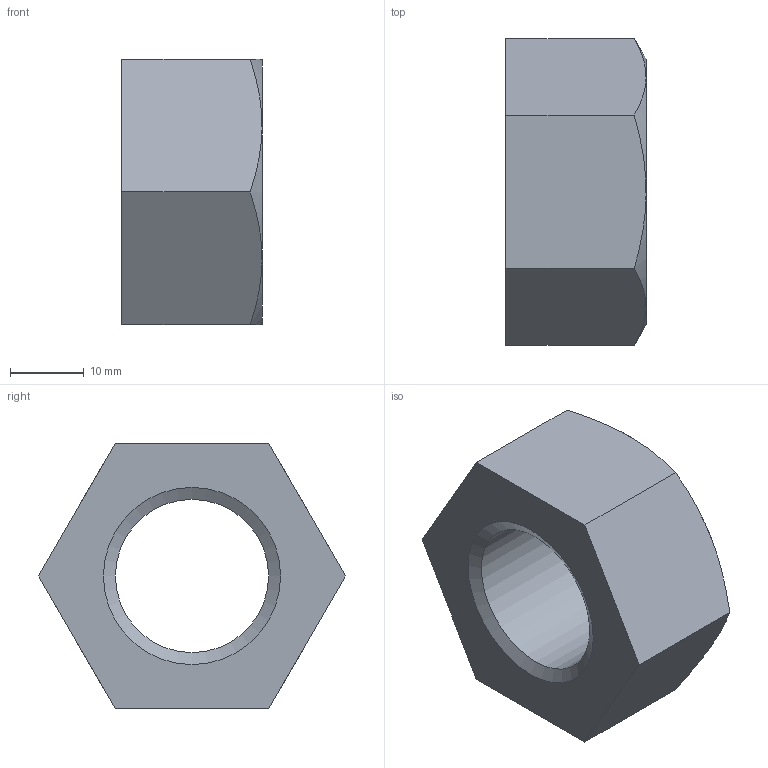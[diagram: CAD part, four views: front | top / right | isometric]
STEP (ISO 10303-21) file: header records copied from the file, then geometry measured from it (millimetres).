
FILE_DESCRIPTION(/* description */ (''),/* implementation_level */ '2;1');
FILE_NAME(/* name */ 'D:\조절자\NUT\M24 NUT.stp',/* time_stamp */ '2016-03-14T15:28:57+09:00',/* author */ ('GS-DT-1-001'),/* organization */ (''),/* preprocessor_version */ 'ST-DEVELOPER v15.6',/* originating_system */ 'Autodesk Inventor LT ',/* authorisation */ '');
FILE_SCHEMA (('AUTOMOTIVE_DESIGN { 1 0 10303 214 3 1 1 }'));
Length unit declared in the file: millimetre
Products named in the file (1): M24 NUT
Bounding box: 19 x 41.58 x 36.01 mm (x, y, z)
Volume: 14754.1 mm3; surface area: 5038.4 mm2
Topology: 1 solids, 1 shells, 12 faces, 30 edges, 20 vertices
Faces by surface type: plane 8, cone 3, cylinder 1
Full cylindrical faces by diameter (mm): 20.752 x1
Entity records: 334 total; most frequent: CARTESIAN_POINT 65, DIRECTION 48, ORIENTED_EDGE 46, EDGE_CURVE 23, EDGE_LOOP 18, AXIS2_PLACEMENT_3D 18, VERTEX_POINT 17, LINE 12
